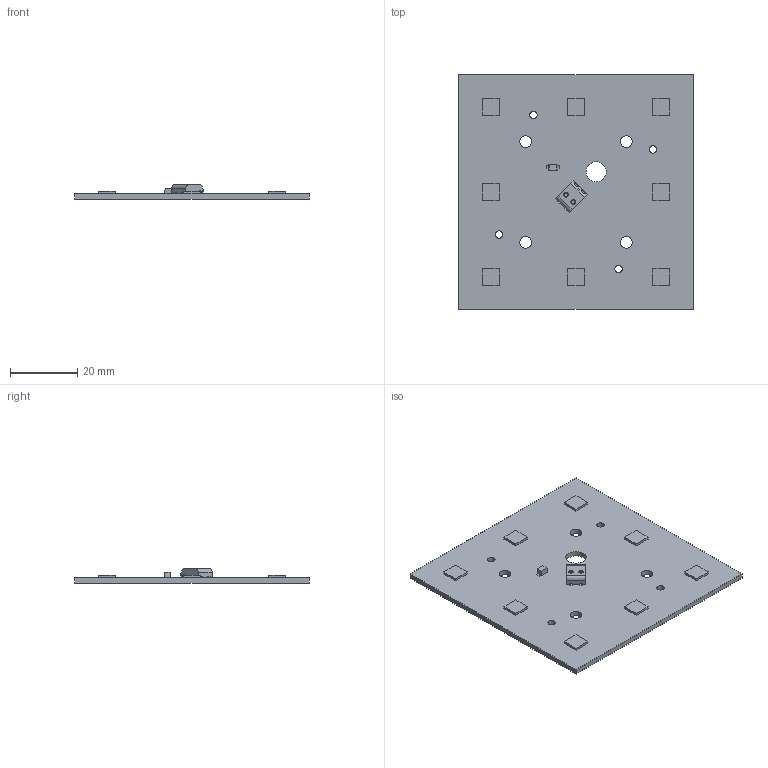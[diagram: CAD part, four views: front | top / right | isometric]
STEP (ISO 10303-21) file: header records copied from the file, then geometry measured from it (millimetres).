
FILE_DESCRIPTION(('Open CASCADE Model'),'2;1');
FILE_NAME('Open CASCADE Shape Model','2025-10-01T09:40:33',('Author'),( 'Open CASCADE'),'Open CASCADE STEP processor 6.8','Open CASCADE 6.8' ,'Unknown');
FILE_SCHEMA(('AUTOMOTIVE_DESIGN { 1 0 10303 214 1 1 1 1 }'));
Length unit declared in the file: millimetre
Products named in the file (1): PCB
Bounding box: 70 x 70 x 4.25 mm (x, y, z)
Volume: 7944.4 mm3; surface area: 10949.2 mm2
Topology: 10 solids, 28 shells, 169 faces, 461 edges, 336 vertices
Faces by surface type: plane 129, cylinder 38, torus 2
Full cylindrical faces by diameter (mm): 1.1 x2, 1.6 x2, 2.2 x4, 3.5 x4, 6 x1
Entity records: 5601 total; most frequent: CARTESIAN_POINT 1037, DIRECTION 861, ORIENTED_EDGE 834, EDGE_CURVE 461, LINE 373, VECTOR 373, VERTEX_POINT 336, AXIS2_PLACEMENT_3D 244
